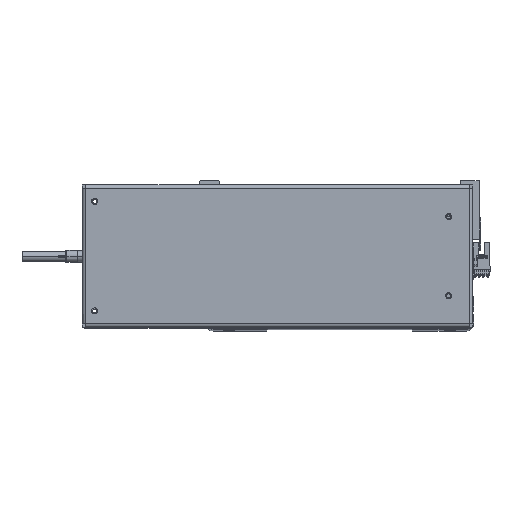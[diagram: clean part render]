
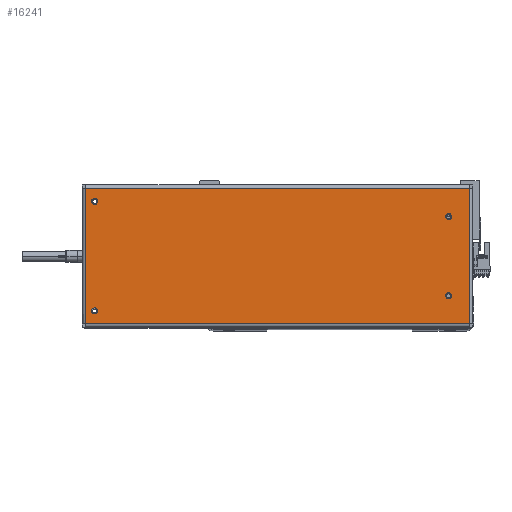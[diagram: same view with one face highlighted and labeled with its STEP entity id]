
A CAD part, top view. The second image highlights one B-rep face of the part: STEP entity #16241.
In plain terms, the highlighted planar face has unit normal (0, 0, 1).
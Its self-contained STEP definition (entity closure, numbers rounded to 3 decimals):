
#370 = VERTEX_POINT ( 'NONE', #20507 ) ;
#564 = DIRECTION ( 'NONE',  ( 0., 1., 0. ) ) ;
#1792 = EDGE_LOOP ( 'NONE', ( #10076, #23543, #16676, #2268 ) ) ;
#2239 = VERTEX_POINT ( 'NONE', #4438 ) ;
#2268 = ORIENTED_EDGE ( 'NONE', *, *, #33505, .T. ) ;
#2358 = VERTEX_POINT ( 'NONE', #38419 ) ;
#2802 = DIRECTION ( 'NONE',  ( 1., 0., 0. ) ) ;
#3839 = FACE_BOUND ( 'NONE', #12024, .T. ) ;
#3877 = VECTOR ( 'NONE', #564, 1000. ) ;
#4104 = ORIENTED_EDGE ( 'NONE', *, *, #39065, .F. ) ;
#4191 = CARTESIAN_POINT ( 'NONE',  ( -140.5, 32.5, 0. ) ) ;
#4438 = CARTESIAN_POINT ( 'NONE',  ( -143., 32.5, 0. ) ) ;
#4957 = AXIS2_PLACEMENT_3D ( 'NONE', #19342, #22370, #30941 ) ;
#5149 = CARTESIAN_POINT ( 'NONE',  ( -143., -32.5, 0. ) ) ;
#5457 = ORIENTED_EDGE ( 'NONE', *, *, #31213, .F. ) ;
#6037 = EDGE_CURVE ( 'NONE', #7753, #31481, #24756, .T. ) ;
#6206 = AXIS2_PLACEMENT_3D ( 'NONE', #25954, #32383, #31989 ) ;
#6809 = EDGE_CURVE ( 'NONE', #15036, #26010, #19928, .T. ) ;
#7336 = CIRCLE ( 'NONE', #34916, 2.5 ) ;
#7463 = DIRECTION ( 'NONE',  ( 0., 0., 1. ) ) ;
#7511 = CARTESIAN_POINT ( 'NONE',  ( 157.6, -55.6, 0. ) ) ;
#7673 = CARTESIAN_POINT ( 'NONE',  ( 150.5, 45., 0. ) ) ;
#7753 = VERTEX_POINT ( 'NONE', #32555 ) ;
#8981 = CIRCLE ( 'NONE', #4957, 2.5 ) ;
#9262 = DIRECTION ( 'NONE',  ( 1., 0., 0. ) ) ;
#10076 = ORIENTED_EDGE ( 'NONE', *, *, #36794, .T. ) ;
#10616 = DIRECTION ( 'NONE',  ( 0., 0., 1. ) ) ;
#10873 = ORIENTED_EDGE ( 'NONE', *, *, #6037, .F. ) ;
#11517 = DIRECTION ( 'NONE',  ( 0., 0., 1. ) ) ;
#11784 = CARTESIAN_POINT ( 'NONE',  ( -140.5, -32.5, 0. ) ) ;
#12024 = EDGE_LOOP ( 'NONE', ( #4104, #16987 ) ) ;
#12532 = ORIENTED_EDGE ( 'NONE', *, *, #37756, .F. ) ;
#12645 = CARTESIAN_POINT ( 'NONE',  ( -140.5, -32.5, 0. ) ) ;
#13113 = CARTESIAN_POINT ( 'NONE',  ( 157.7, 55.6, 0. ) ) ;
#13275 = AXIS2_PLACEMENT_3D ( 'NONE', #4191, #19478, #37505 ) ;
#13448 = VERTEX_POINT ( 'NONE', #20989 ) ;
#13540 = EDGE_LOOP ( 'NONE', ( #5457, #10873 ) ) ;
#14617 = DIRECTION ( 'NONE',  ( 0., 0., -1. ) ) ;
#15036 = VERTEX_POINT ( 'NONE', #7511 ) ;
#15286 = LINE ( 'NONE', #32884, #17173 ) ;
#15412 = CARTESIAN_POINT ( 'NONE',  ( 153., -45., 0. ) ) ;
#15477 = CARTESIAN_POINT ( 'NONE',  ( 157.6, -55.6, 0. ) ) ;
#16104 = FACE_BOUND ( 'NONE', #13540, .T. ) ;
#16174 = AXIS2_PLACEMENT_3D ( 'NONE', #38045, #7463, #19632 ) ;
#16241 = ADVANCED_FACE ( 'NONE', ( #30237, #3839, #16104, #24637, #25087 ), #23720, .F. ) ;
#16676 = ORIENTED_EDGE ( 'NONE', *, *, #6809, .T. ) ;
#16987 = ORIENTED_EDGE ( 'NONE', *, *, #18041, .F. ) ;
#17015 = EDGE_LOOP ( 'NONE', ( #21597, #23450 ) ) ;
#17173 = VECTOR ( 'NONE', #9262, 1000. ) ;
#17284 = CIRCLE ( 'NONE', #13275, 2.5 ) ;
#18041 = EDGE_CURVE ( 'NONE', #2239, #35925, #36224, .T. ) ;
#18554 = LINE ( 'NONE', #13113, #29833 ) ;
#18694 = AXIS2_PLACEMENT_3D ( 'NONE', #26376, #14617, #29347 ) ;
#18881 = VECTOR ( 'NONE', #23298, 1000. ) ;
#19342 = CARTESIAN_POINT ( 'NONE',  ( 150.5, 45., 0. ) ) ;
#19361 = ORIENTED_EDGE ( 'NONE', *, *, #23174, .F. ) ;
#19478 = DIRECTION ( 'NONE',  ( 0., 0., 1. ) ) ;
#19612 = CARTESIAN_POINT ( 'NONE',  ( -157.6, 55.6, 0. ) ) ;
#19632 = DIRECTION ( 'NONE',  ( 1., 0., 0. ) ) ;
#19928 = LINE ( 'NONE', #15477, #3877 ) ;
#20507 = CARTESIAN_POINT ( 'NONE',  ( -157.6, -55.6, 0. ) ) ;
#20738 = EDGE_CURVE ( 'NONE', #28376, #13448, #7336, .T. ) ;
#20921 = AXIS2_PLACEMENT_3D ( 'NONE', #34887, #28306, #37519 ) ;
#20989 = CARTESIAN_POINT ( 'NONE',  ( 148., 45., 0. ) ) ;
#21099 = AXIS2_PLACEMENT_3D ( 'NONE', #11784, #11517, #2802 ) ;
#21113 = AXIS2_PLACEMENT_3D ( 'NONE', #12645, #37245, #21862 ) ;
#21583 = EDGE_LOOP ( 'NONE', ( #19361, #12532 ) ) ;
#21597 = ORIENTED_EDGE ( 'NONE', *, *, #20738, .F. ) ;
#21862 = DIRECTION ( 'NONE',  ( 1., 0., 0. ) ) ;
#22370 = DIRECTION ( 'NONE',  ( 0., 0., 1. ) ) ;
#23174 = EDGE_CURVE ( 'NONE', #2358, #34161, #31778, .T. ) ;
#23298 = DIRECTION ( 'NONE',  ( 0., -1., 0. ) ) ;
#23450 = ORIENTED_EDGE ( 'NONE', *, *, #30459, .F. ) ;
#23543 = ORIENTED_EDGE ( 'NONE', *, *, #28184, .T. ) ;
#23720 = PLANE ( 'NONE',  #18694 ) ;
#24637 = FACE_BOUND ( 'NONE', #17015, .T. ) ;
#24756 = CIRCLE ( 'NONE', #6206, 2.5 ) ;
#25087 = FACE_OUTER_BOUND ( 'NONE', #1792, .T. ) ;
#25289 = DIRECTION ( 'NONE',  ( 1., 0., 0. ) ) ;
#25384 = CARTESIAN_POINT ( 'NONE',  ( 153., 45., 0. ) ) ;
#25954 = CARTESIAN_POINT ( 'NONE',  ( 150.5, -45., 0. ) ) ;
#26010 = VERTEX_POINT ( 'NONE', #29523 ) ;
#26128 = CARTESIAN_POINT ( 'NONE',  ( -138., 32.5, 0. ) ) ;
#26376 = CARTESIAN_POINT ( 'NONE',  ( 157.7, 58.5, 0. ) ) ;
#26877 = LINE ( 'NONE', #19612, #18881 ) ;
#27302 = CIRCLE ( 'NONE', #21113, 2.5 ) ;
#27605 = CIRCLE ( 'NONE', #20921, 2.5 ) ;
#27840 = VERTEX_POINT ( 'NONE', #28557 ) ;
#28184 = EDGE_CURVE ( 'NONE', #370, #15036, #15286, .T. ) ;
#28306 = DIRECTION ( 'NONE',  ( 0., 0., 1. ) ) ;
#28376 = VERTEX_POINT ( 'NONE', #25384 ) ;
#28557 = CARTESIAN_POINT ( 'NONE',  ( -157.6, 55.6, 0. ) ) ;
#29347 = DIRECTION ( 'NONE',  ( -1., 0., 0. ) ) ;
#29523 = CARTESIAN_POINT ( 'NONE',  ( 157.6, 55.6, 0. ) ) ;
#29833 = VECTOR ( 'NONE', #31042, 1000. ) ;
#30237 = FACE_BOUND ( 'NONE', #21583, .T. ) ;
#30459 = EDGE_CURVE ( 'NONE', #13448, #28376, #8981, .T. ) ;
#30941 = DIRECTION ( 'NONE',  ( 1., 0., 0. ) ) ;
#31042 = DIRECTION ( 'NONE',  ( -1., 0., 0. ) ) ;
#31213 = EDGE_CURVE ( 'NONE', #31481, #7753, #27605, .T. ) ;
#31481 = VERTEX_POINT ( 'NONE', #15412 ) ;
#31778 = CIRCLE ( 'NONE', #21099, 2.5 ) ;
#31989 = DIRECTION ( 'NONE',  ( 1., 0., 0. ) ) ;
#32383 = DIRECTION ( 'NONE',  ( 0., 0., 1. ) ) ;
#32555 = CARTESIAN_POINT ( 'NONE',  ( 148., -45., 0. ) ) ;
#32884 = CARTESIAN_POINT ( 'NONE',  ( -157.7, -55.6, 0. ) ) ;
#33505 = EDGE_CURVE ( 'NONE', #26010, #27840, #18554, .T. ) ;
#34161 = VERTEX_POINT ( 'NONE', #5149 ) ;
#34887 = CARTESIAN_POINT ( 'NONE',  ( 150.5, -45., 0. ) ) ;
#34916 = AXIS2_PLACEMENT_3D ( 'NONE', #7673, #10616, #25289 ) ;
#35925 = VERTEX_POINT ( 'NONE', #26128 ) ;
#36224 = CIRCLE ( 'NONE', #16174, 2.5 ) ;
#36794 = EDGE_CURVE ( 'NONE', #27840, #370, #26877, .T. ) ;
#37245 = DIRECTION ( 'NONE',  ( 0., 0., 1. ) ) ;
#37505 = DIRECTION ( 'NONE',  ( 1., 0., 0. ) ) ;
#37519 = DIRECTION ( 'NONE',  ( 1., 0., 0. ) ) ;
#37756 = EDGE_CURVE ( 'NONE', #34161, #2358, #27302, .T. ) ;
#38045 = CARTESIAN_POINT ( 'NONE',  ( -140.5, 32.5, 0. ) ) ;
#38419 = CARTESIAN_POINT ( 'NONE',  ( -138., -32.5, 0. ) ) ;
#39065 = EDGE_CURVE ( 'NONE', #35925, #2239, #17284, .T. ) ;
